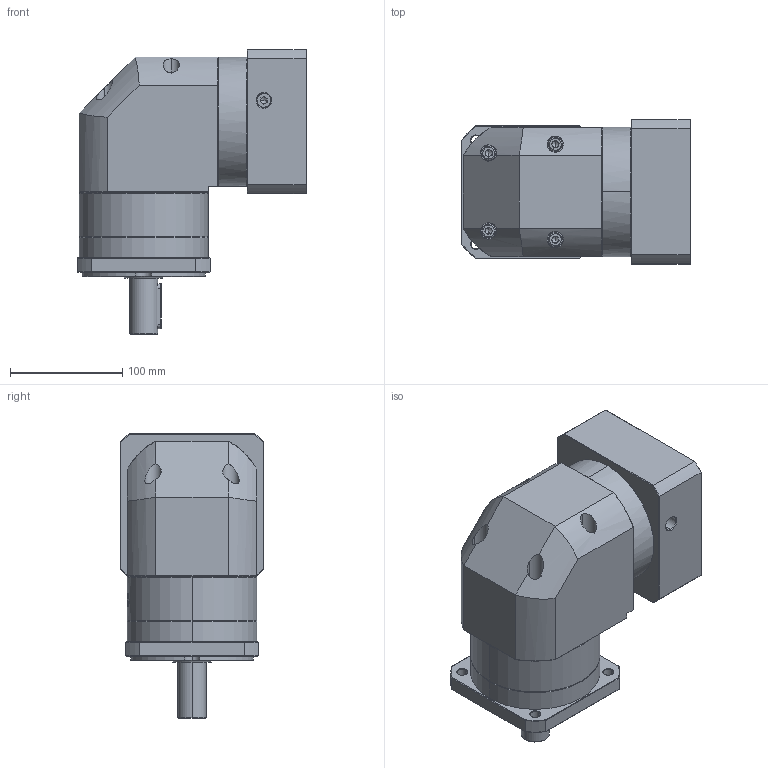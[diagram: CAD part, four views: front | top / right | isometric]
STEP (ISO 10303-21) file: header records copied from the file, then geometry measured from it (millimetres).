
FILE_DESCRIPTION (( 'STEP AP214' ), '1' );
FILE_NAME ('ZFR120A-D25-L1-P2-28-110-145-M8.step', '2023-08-27T08:02:27', ( '' ), ( '' ), 'SwSTEP 2.0', 'SolidWorks 2016', '' );
FILE_SCHEMA (( 'AUTOMOTIVE_DESIGN' ));
Length unit declared in the file: millimetre
Products named in the file (1): ZFR120A-D25-L1-P2-28-110-145-M8
Bounding box: 203.9 x 128 x 253 mm (x, y, z)
Volume: 3083445.5 mm3; surface area: 258271.9 mm2
Topology: 6 solids, 6 shells, 2267 faces, 5975 edges, 3810 vertices
Faces by surface type: plane 1062, cylinder 434, bspline 425, cone 338, torus 8
Entity records: 124132 total; most frequent: CARTESIAN_POINT 48742, ORIENTED_EDGE 11890, DIRECTION 8609, EDGE_CURVE 5945, VERTEX_POINT 3810, LINE 3163, VECTOR 3163, AXIS2_PLACEMENT_3D 2723
